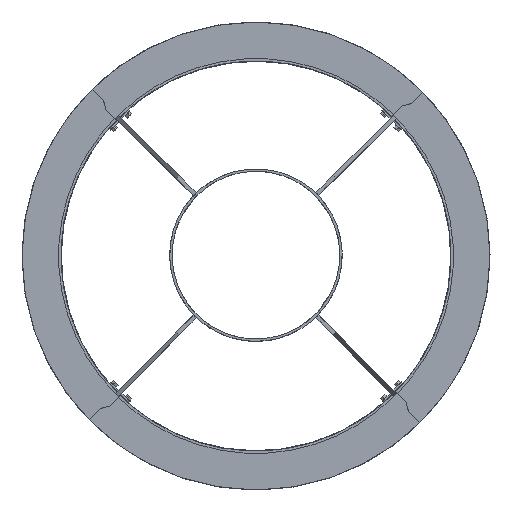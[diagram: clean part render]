
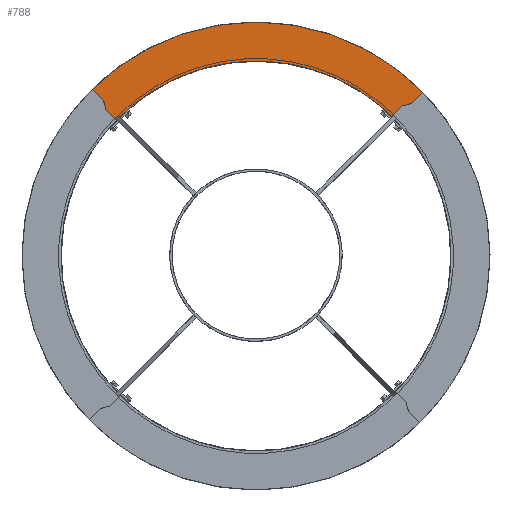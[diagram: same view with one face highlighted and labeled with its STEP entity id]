
A CAD part, top view. The second image highlights one B-rep face of the part: STEP entity #788.
In plain terms, the highlighted planar face has unit normal (0, 0, 1).
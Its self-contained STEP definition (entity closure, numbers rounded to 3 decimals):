
#788=ADVANCED_FACE('',(#1443),#11061,.T.);
#1443=FACE_OUTER_BOUND('',#2160,.T.);
#2160=EDGE_LOOP('',(#4015,#4016,#4017,#4018,#4019,#4020,#4021,#4022,#4023,
#4024,#4025));
#4015=ORIENTED_EDGE('',*,*,#6781,.T.);
#4016=ORIENTED_EDGE('',*,*,#6782,.F.);
#4017=ORIENTED_EDGE('',*,*,#6779,.F.);
#4018=ORIENTED_EDGE('',*,*,#6800,.T.);
#4019=ORIENTED_EDGE('',*,*,#6783,.T.);
#4020=ORIENTED_EDGE('',*,*,#6784,.T.);
#4021=ORIENTED_EDGE('',*,*,#6785,.T.);
#4022=ORIENTED_EDGE('',*,*,#6786,.T.);
#4023=ORIENTED_EDGE('',*,*,#6787,.T.);
#4024=ORIENTED_EDGE('',*,*,#6792,.T.);
#4025=ORIENTED_EDGE('',*,*,#6788,.T.);
#6779=EDGE_CURVE('',#10021,#10011,#8316,.T.);
#6781=EDGE_CURVE('',#10022,#10010,#8318,.T.);
#6782=EDGE_CURVE('',#10011,#10010,#9320,.T.);
#6783=EDGE_CURVE('',#10023,#10024,#8319,.T.);
#6784=EDGE_CURVE('',#10024,#10025,#8320,.T.);
#6785=EDGE_CURVE('',#10025,#10026,#9321,.T.);
#6786=EDGE_CURVE('',#10026,#10027,#8321,.T.);
#6787=EDGE_CURVE('',#10027,#10028,#8322,.T.);
#6788=EDGE_CURVE('',#10029,#10022,#8323,.T.);
#6792=EDGE_CURVE('',#10028,#10029,#8327,.T.);
#6800=EDGE_CURVE('',#10021,#10023,#8335,.T.);
#8316=B_SPLINE_CURVE_WITH_KNOTS('',1,(#16402,#16403),.UNSPECIFIED.,.F.,
 .F.,(2,2),(0.,39.986),.UNSPECIFIED.);
#8318=B_SPLINE_CURVE_WITH_KNOTS('',1,(#16406,#16407),.UNSPECIFIED.,.F.,
 .F.,(2,2),(0.,8.),.UNSPECIFIED.);
#8319=B_SPLINE_CURVE_WITH_KNOTS('',1,(#16411,#16412),.UNSPECIFIED.,.F.,
 .F.,(2,2),(0.,40.),.UNSPECIFIED.);
#8320=B_SPLINE_CURVE_WITH_KNOTS('',1,(#16413,#16414),.UNSPECIFIED.,.F.,
 .F.,(2,2),(0.,8.),.UNSPECIFIED.);
#8321=B_SPLINE_CURVE_WITH_KNOTS('',1,(#16418,#16419),.UNSPECIFIED.,.F.,
 .F.,(2,2),(0.,0.016),.UNSPECIFIED.);
#8322=B_SPLINE_CURVE_WITH_KNOTS('',1,(#16420,#16421),.UNSPECIFIED.,.F.,
 .F.,(2,2),(0.,40.),.UNSPECIFIED.);
#8323=B_SPLINE_CURVE_WITH_KNOTS('',1,(#16422,#16423),.UNSPECIFIED.,.F.,
 .F.,(2,2),(0.,40.),.UNSPECIFIED.);
#8327=B_SPLINE_CURVE_WITH_KNOTS('',1,(#16430,#16431),.UNSPECIFIED.,.F.,
 .F.,(2,2),(0.,23.324),.UNSPECIFIED.);
#8335=B_SPLINE_CURVE_WITH_KNOTS('',1,(#16446,#16447),.UNSPECIFIED.,.F.,
 .F.,(2,2),(-23.324,0.),.UNSPECIFIED.);
#9320=(
BOUNDED_CURVE()
B_SPLINE_CURVE(2,(#16408,#16409,#16410),.UNSPECIFIED.,.F.,.F.)
B_SPLINE_CURVE_WITH_KNOTS((3,3),(-926.697,0.),.UNSPECIFIED.)
CURVE()
GEOMETRIC_REPRESENTATION_ITEM()
RATIONAL_B_SPLINE_CURVE((1.,0.709,1.))
REPRESENTATION_ITEM('')
);
#9321=(
BOUNDED_CURVE()
B_SPLINE_CURVE(2,(#16415,#16416,#16417),.UNSPECIFIED.,.F.,.F.)
B_SPLINE_CURVE_WITH_KNOTS((3,3),(0.,769.617),.UNSPECIFIED.)
CURVE()
GEOMETRIC_REPRESENTATION_ITEM()
RATIONAL_B_SPLINE_CURVE((1.,0.71,1.))
REPRESENTATION_ITEM('')
);
#10010=VERTEX_POINT('',#16358);
#10011=VERTEX_POINT('',#16359);
#10021=VERTEX_POINT('',#16369);
#10022=VERTEX_POINT('',#16370);
#10023=VERTEX_POINT('',#16371);
#10024=VERTEX_POINT('',#16372);
#10025=VERTEX_POINT('',#16373);
#10026=VERTEX_POINT('',#16374);
#10027=VERTEX_POINT('',#16375);
#10028=VERTEX_POINT('',#16376);
#10029=VERTEX_POINT('',#16377);
#11061=PLANE('',#11549);
#11549=AXIS2_PLACEMENT_3D('',#16329,#12020,$);
#12020=DIRECTION('',(0.,0.,1.));
#16329=CARTESIAN_POINT('',(749.407,1675.448,165.));
#16358=CARTESIAN_POINT('',(1168.676,1171.837,165.));
#16359=CARTESIAN_POINT('',(333.59,1174.128,165.));
#16369=CARTESIAN_POINT('',(361.883,1145.872,165.));
#16370=CARTESIAN_POINT('',(1174.336,1166.184,165.));
#16371=CARTESIAN_POINT('',(367.554,1123.248,165.));
#16372=CARTESIAN_POINT('',(395.856,1094.981,165.));
#16373=CARTESIAN_POINT('',(401.51,1100.642,165.));
#16374=CARTESIAN_POINT('',(1095.168,1103.897,165.));
#16375=CARTESIAN_POINT('',(1095.179,1103.909,165.));
#16376=CARTESIAN_POINT('',(1123.446,1132.211,165.));
#16377=CARTESIAN_POINT('',(1146.07,1137.882,165.));
#16402=CARTESIAN_POINT('',(361.883,1145.872,165.));
#16403=CARTESIAN_POINT('',(333.59,1174.128,165.));
#16406=CARTESIAN_POINT('',(1174.336,1166.184,165.));
#16407=CARTESIAN_POINT('',(1168.676,1171.837,165.));
#16408=CARTESIAN_POINT('',(333.59,1174.128,165.));
#16409=CARTESIAN_POINT('',(752.271,1587.716,165.));
#16410=CARTESIAN_POINT('',(1168.676,1171.837,165.));
#16411=CARTESIAN_POINT('',(367.554,1123.248,165.));
#16412=CARTESIAN_POINT('',(395.856,1094.981,165.));
#16413=CARTESIAN_POINT('',(395.856,1094.981,165.));
#16414=CARTESIAN_POINT('',(401.51,1100.642,165.));
#16415=CARTESIAN_POINT('',(401.51,1100.642,165.));
#16416=CARTESIAN_POINT('',(746.724,1446.293,165.));
#16417=CARTESIAN_POINT('',(1095.168,1103.897,165.));
#16418=CARTESIAN_POINT('',(1095.168,1103.897,165.));
#16419=CARTESIAN_POINT('',(1095.179,1103.909,165.));
#16420=CARTESIAN_POINT('',(1095.179,1103.909,165.));
#16421=CARTESIAN_POINT('',(1123.446,1132.211,165.));
#16422=CARTESIAN_POINT('',(1146.07,1137.882,165.));
#16423=CARTESIAN_POINT('',(1174.336,1166.184,165.));
#16430=CARTESIAN_POINT('',(1123.446,1132.211,165.));
#16431=CARTESIAN_POINT('',(1146.07,1137.882,165.));
#16446=CARTESIAN_POINT('',(361.883,1145.872,165.));
#16447=CARTESIAN_POINT('',(367.554,1123.248,165.));
